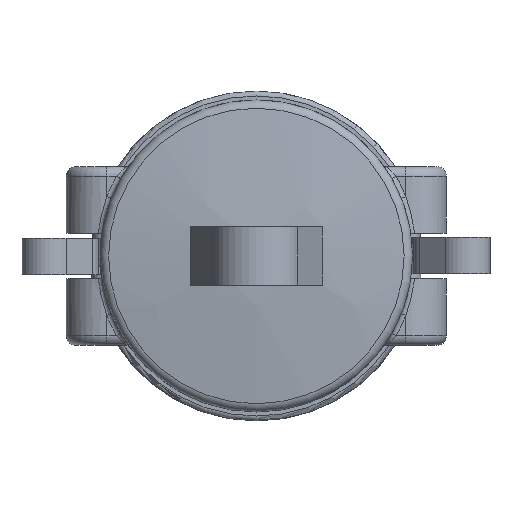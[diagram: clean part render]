
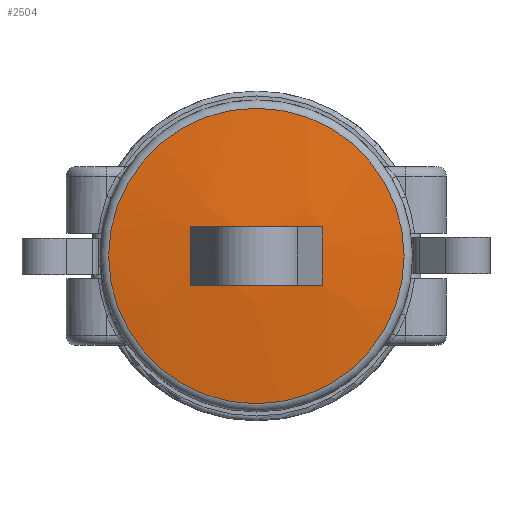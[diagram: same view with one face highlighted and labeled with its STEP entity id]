
A CAD part, left-side view. The second image highlights one B-rep face of the part: STEP entity #2504.
In plain terms, the highlighted spherical face has radius 147.32 mm.
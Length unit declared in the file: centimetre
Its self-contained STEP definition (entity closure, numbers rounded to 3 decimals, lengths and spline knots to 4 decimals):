
#34=SPHERICAL_SURFACE('',#2669,14.732);
#994=VERTEX_POINT('',#3968);
#996=VERTEX_POINT('',#3973);
#997=VERTEX_POINT('',#3974);
#998=VERTEX_POINT('',#3976);
#999=VERTEX_POINT('',#3978);
#1149=CIRCLE('',#2667,2.3099);
#1151=CIRCLE('',#2670,12.9454);
#1152=CIRCLE('',#2671,14.7249);
#1153=CIRCLE('',#2672,12.9454);
#1154=CIRCLE('',#2673,14.7249);
#1339=EDGE_CURVE('',#994,#994,#1149,.T.);
#1341=EDGE_CURVE('',#996,#997,#1151,.T.);
#1342=EDGE_CURVE('',#997,#998,#1152,.T.);
#1343=EDGE_CURVE('',#998,#999,#1153,.T.);
#1344=EDGE_CURVE('',#999,#996,#1154,.T.);
#1706=ORIENTED_EDGE('',*,*,#1341,.T.);
#1707=ORIENTED_EDGE('',*,*,#1342,.T.);
#1708=ORIENTED_EDGE('',*,*,#1343,.T.);
#1709=ORIENTED_EDGE('',*,*,#1344,.T.);
#1710=ORIENTED_EDGE('',*,*,#1339,.F.);
#2194=EDGE_LOOP('',(#1706,#1707,#1708,#1709));
#2195=EDGE_LOOP('',(#1710));
#2360=FACE_BOUND('',#2194,.T.);
#2361=FACE_BOUND('',#2195,.T.);
#2504=ADVANCED_FACE('',(#2360,#2361),#34,.T.);
#2667=AXIS2_PLACEMENT_3D('',#3967,#3007,#3008);
#2669=AXIS2_PLACEMENT_3D('',#3971,#3011,#3012);
#2670=AXIS2_PLACEMENT_3D('',#3972,#3013,#3014);
#2671=AXIS2_PLACEMENT_3D('',#3975,#3015,#3016);
#2672=AXIS2_PLACEMENT_3D('',#3977,#3017,#3018);
#2673=AXIS2_PLACEMENT_3D('',#3979,#3019,#3020);
#3007=DIRECTION('',(1.,0.,0.));
#3008=DIRECTION('',(0.,0.,2.31));
#3011=DIRECTION('',(0.,0.,1.));
#3012=DIRECTION('',(1.,0.,0.));
#3013=DIRECTION('',(-0.415,0.91,0.));
#3014=DIRECTION('',(0.,0.,-12.945));
#3015=DIRECTION('',(0.,0.,1.));
#3016=DIRECTION('',(0.,14.725,0.));
#3017=DIRECTION('',(-0.415,-0.91,0.));
#3018=DIRECTION('',(0.,0.,12.945));
#3019=DIRECTION('',(0.,0.,-1.));
#3020=DIRECTION('',(0.,-14.725,0.));
#3967=CARTESIAN_POINT('',(-3.704,0.,0.));
#3968=CARTESIAN_POINT('',(-3.704,0.,-2.3099));
#3971=CARTESIAN_POINT('',(10.8458,0.,0.));
#3972=CARTESIAN_POINT('',(7.9294,6.3986,0.));
#3973=CARTESIAN_POINT('',(-3.8428,1.0329,-0.4572));
#3974=CARTESIAN_POINT('',(-3.8428,1.0329,0.4572));
#3975=CARTESIAN_POINT('',(10.8458,0.,0.4572));
#3976=CARTESIAN_POINT('',(-3.8428,-1.0329,0.4572));
#3977=CARTESIAN_POINT('',(7.9294,-6.3986,0.));
#3978=CARTESIAN_POINT('',(-3.8428,-1.0329,-0.4572));
#3979=CARTESIAN_POINT('',(10.8458,0.,-0.4572));
